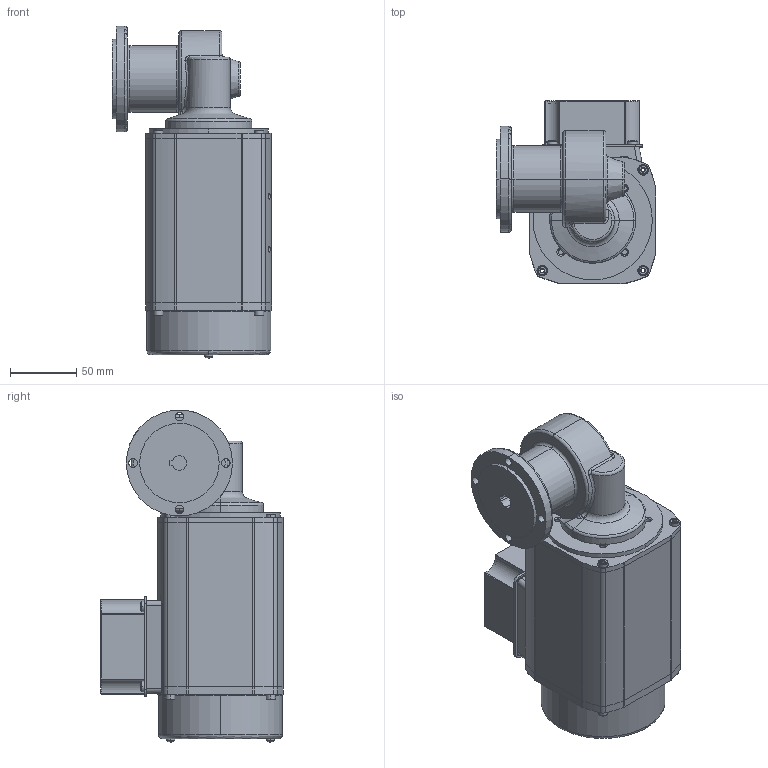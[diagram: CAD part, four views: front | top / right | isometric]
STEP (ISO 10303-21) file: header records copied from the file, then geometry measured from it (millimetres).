
FILE_DESCRIPTION (( 'STEP AP203' ), '1' );
FILE_NAME ('SN5FLHG-120W-A.STEP', '2017-04-18T10:24:59', ( '' ), ( '' ), 'SwSTEP 2.0', 'SolidWorks 2015', '' );
FILE_SCHEMA (( 'CONFIG_CONTROL_DESIGN' ));
Length unit declared in the file: millimetre
Products named in the file (3): SN5FLH-Lose; NU9065 oF; SN5FLHG-120W-A
Assembly tree (2 placements, depth 2):
  SN5FLHG-120W-A
    SN5FLH-Lose
    NU9065 oF
Bounding box: 120.2 x 138.01 x 250.57 mm (x, y, z)
Volume: 314266.5 mm3; surface area: 147248.7 mm2
Topology: 1 solids, 103 shells, 611 faces, 2181 edges, 1646 vertices
Faces by surface type: cylinder 238, plane 188, bspline 84, cone 77, torus 24
Entity records: 31579 total; most frequent: CARTESIAN_POINT 13729, DIRECTION 3480, ORIENTED_EDGE 3298, EDGE_CURVE 2179, VERTEX_POINT 1646, AXIS2_PLACEMENT_3D 1299, VECTOR 882, LINE 882
